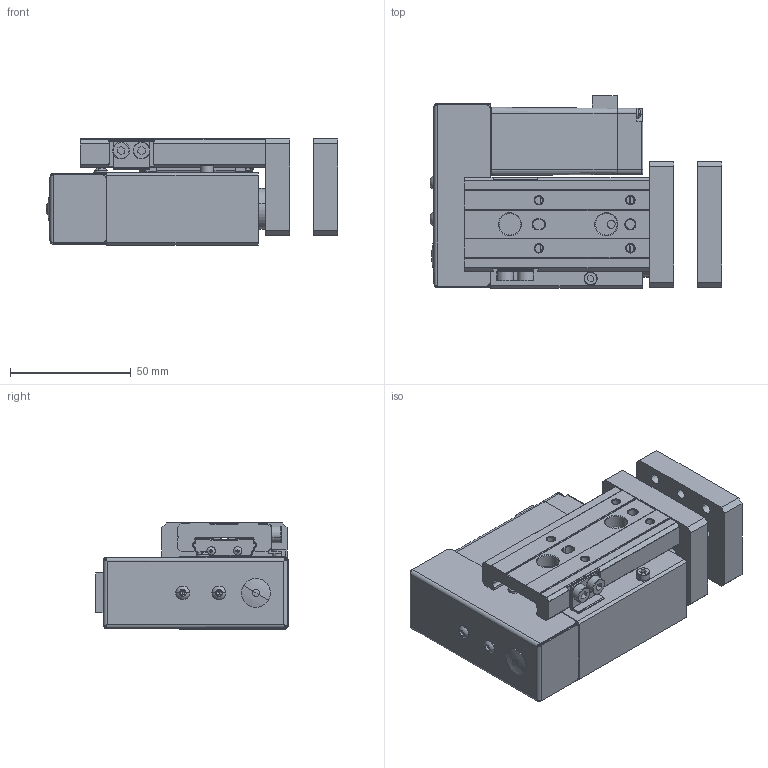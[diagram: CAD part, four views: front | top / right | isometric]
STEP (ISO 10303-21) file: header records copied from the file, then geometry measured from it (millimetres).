
FILE_DESCRIPTION (( 'STEP AP203' ), '1' );
FILE_NAME ('CSS12R-xx-20-xx-CSO-xx-xx.STEP', '2024-10-18T06:27:17', ( 'Windows User' ), ( 'P R C' ), 'SwSTEP 2.0', 'SolidWorks 2018', '' );
FILE_SCHEMA (( 'CONFIG_CONTROL_DESIGN' ));
Length unit declared in the file: millimetre
Products named in the file (17): CSS12R-xx-20-xx-CSO-xx-xx; 复件 RB-WS22015-P002  安装板（右折）^SS12R-1.5-20（客用）; 复件 RB-WS22015-P001-05  FRAME（右折，ST=20）^SS12R-1.5-20（客用）; 复件 (2) 28闭环步进电机-客用3D^SS12R-1.5-20（客用）; 复件 RB-WS22015-P006  连接件^SS12R-1.5-20（客用）; 复件 十字槽盘头螺钉YM3-6^SS12R-1.5-20（客用）; 复件 RB-WS22015-P004  限位块^SS12R-1.5-20（客用）; 复件 RB-WS22015-B003-02  BLOCK（MXQ12-30-导轨半制）^SS12R-1.5-20（客用）; 复件 RB-WS22015-B003-01  RAIL（MXQ12-30-滑台）^SS12R-1.5-20（客用）; 复件 SVS-23RB12SL-B010  堵头塞子（φ8宽边带槽型）^SS12R-1.5-20（客用）; 复件 内六角圆头螺钉M3^SS12R-1.5-20（客用）; 复件 MOTOR PLATE^SS12R-1.5-20（客用）; 复件 内六角杯头螺钉M4-10^SS12R-1.5-20（客用）; 复件 COVER END^SS12R-1.5-20（客用）; 复件 内六角杯头螺钉M4-8^SS12R-1.5-20（客用）; 复件 内六角杯头螺钉M4-12^SS12R-1.5-20（客用）; 复件 内六角杯头螺钉M3-6^SS12R-1.5-20（客用）
Assembly tree (21 placements, depth 2):
  CSS12R-xx-20-xx-CSO-xx-xx
    复件 RB-WS22015-P001-05  FRAME（右折，ST=20）^SS12R-1.5-20（客用）
    复件 RB-WS22015-P002  安装板（右折）^SS12R-1.5-20（客用）  x2
    复件 RB-WS22015-P006  连接件^SS12R-1.5-20（客用）
    复件 RB-WS22015-B003-01  RAIL（MXQ12-30-滑台）^SS12R-1.5-20（客用）
    复件 RB-WS22015-B003-02  BLOCK（MXQ12-30-导轨半制）^SS12R-1.5-20（客用）
    复件 内六角杯头螺钉M4-12^SS12R-1.5-20（客用）  x2
    复件 内六角杯头螺钉M3-6^SS12R-1.5-20（客用）  x2
    复件 内六角杯头螺钉M4-10^SS12R-1.5-20（客用）
    复件 十字槽盘头螺钉YM3-6^SS12R-1.5-20（客用）
    复件 内六角杯头螺钉M4-8^SS12R-1.5-20（客用）  x2
    复件 RB-WS22015-P004  限位块^SS12R-1.5-20（客用）
    复件 SVS-23RB12SL-B010  堵头塞子（φ8宽边带槽型）^SS12R-1.5-20（客用）
    复件 COVER END^SS12R-1.5-20（客用）
    复件 MOTOR PLATE^SS12R-1.5-20（客用）
    复件 (2) 28闭环步进电机-客用3D^SS12R-1.5-20（客用）
    复件 内六角圆头螺钉M3^SS12R-1.5-20（客用）  x2
Bounding box: 121.15 x 79.88 x 44 mm (x, y, z)
Volume: 218641.1 mm3; surface area: 76801.9 mm2
Topology: 63 solids, 63 shells, 1392 faces, 3377 edges, 2000 vertices
Faces by surface type: plane 545, cylinder 459, cone 174, bspline 174, torus 34, sphere 6
Entity records: 41011 total; most frequent: CARTESIAN_POINT 11048, ORIENTED_EDGE 5802, DIRECTION 5800, EDGE_CURVE 2901, AXIS2_PLACEMENT_3D 2111, VERTEX_POINT 1812, VECTOR 1578, LINE 1578
